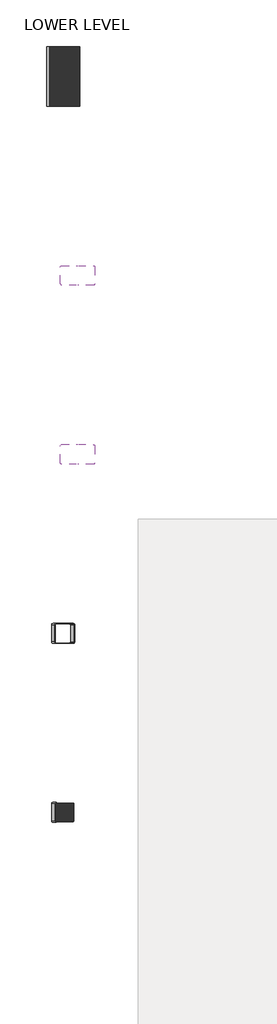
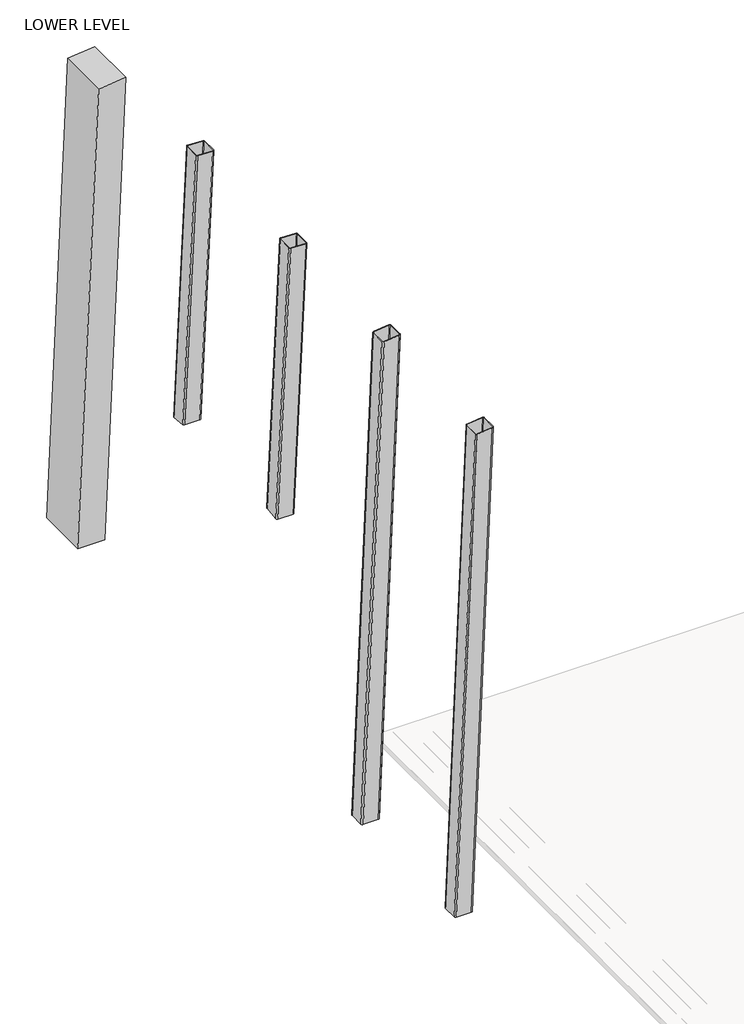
# One storey, part 2 of 3: 5 columns.
"""IFC4 building model written with IfcOpenShell, lengths in millimetres."""

from ifc_helpers import new_model, si_unit, frame, origin, place, context, project, spatial, polyline, circle_curve, ellipse_curve, faceted_brep, element, save
from ifc_brep_helpers import plane_surface, cylinder_surface, revolved_surface, advanced_brep

model = new_model("IFC4")

# Units and contexts
model_context = context("Model", 3, world=origin())
ifc_project = project(units=[si_unit("LENGTHUNIT", "METRE", prefix="MILLI")], contexts=[model_context])

# Site, building, storey
site = spatial("IfcSite", under=ifc_project)
building = spatial("IfcBuilding", under=site)
storey = spatial("IfcBuildingStorey", under=building, Name="LOWER LEVEL", Elevation=29972.0)

# Columns
placement = place(None, origin())
element("IfcColumn", 1, ObjectType="Concrete-Rectangular-Column : A_str", at=placement, inside=storey, context=model_context, shape_type="Brep", body=[
    faceted_brep([(-21607.7400357, 20848.2082736, 38102.2891217), (-21607.7400357, 21759.2695005, 38102.2891217), (-21607.7400357, 21762.6082736, 38102.2891217), (-21965.9553348, 21762.6082736, 29972.0), (-21965.9553348, 20848.2082736, 29972.0), (-21147.4307495, 21762.6082736, 38153.7759611), (-21507.9145255, 21762.6082736, 29972.0), (-21147.4307495, 20848.2082736, 38153.7759611), (-21507.9145255, 20848.2082736, 29972.0), (-21147.4307495, 21759.2695005, 38153.7759611)], [[[0, 1, 2, 3, 4]], [[2, 5, 6, 3]], [[7, 0, 4, 8]], [[5, 9, 7, 8, 6]], [[4, 3, 6, 8]], [[5, 2, 1, 0, 7, 9]]]),
])
element("IfcColumn", 2, ObjectType="HSS-Hollow Structural Section-Column : HSS12X12X1/2", at=placement, inside=storey, context=model_context, shape_type="AdvancedBrep", body=[
    advanced_brep(
    [(-21533.4360881, 10151.9775005, 38519.5536732), (-21889.5056209, 10151.9775005, 29971.1494497), (-21889.5056209, 9894.4215005, 29971.1494497), (-21533.4360881, 9894.4215005, 38519.5536732), (-21509.6829426, 10175.5995005, 38522.2104192), (-21865.8631377, 10175.5995005, 29971.1494497), (-21250.6970332, 10175.5995005, 38551.1775203), (-21608.0838046, 10175.5995005, 29971.1494497), (-21226.9438877, 10151.9775005, 38553.8342663), (-21584.4413214, 10151.9775005, 29971.1494497), (-21226.9438877, 9894.4215005, 38553.8342663), (-21584.4413214, 9894.4215005, 29971.1494497), (-21250.6970332, 9870.7995005, 38551.1775203), (-21608.0838046, 9870.7995005, 29971.1494497), (-21509.6829426, 9870.7995005, 38522.2104192), (-21865.8631377, 9870.7995005, 29971.1494497), (-21509.6829426, 9882.6105005, 38522.2104192), (-21865.8631377, 9882.6105005, 29971.1494497), (-21877.6843793, 9894.4215005, 29971.1494497), (-21521.5595154, 9894.4215005, 38520.8820462), (-21250.6970332, 9882.6105005, 38551.1775203), (-21608.0838046, 9882.6105005, 29971.1494497), (-21238.8204605, 9894.4215005, 38552.5058933), (-21596.262563, 9894.4215005, 29971.1494497), (-21238.8204605, 10151.9775005, 38552.5058933), (-21596.262563, 10151.9775005, 29971.1494497), (-21250.6970332, 10163.7885005, 38551.1775203), (-21608.0838046, 10163.7885005, 29971.1494497), (-21509.6829426, 10163.7885005, 38522.2104192), (-21865.8631377, 10163.7885005, 29971.1494497), (-21521.5595154, 10151.9775005, 38520.8820462), (-21877.6843793, 10151.9775005, 29971.1494497)],
    [
        (0, 1),
        (1, 2),
        (2, 3),
        (3, 0),
        (4, 5),
        (5, 1, ellipse_curve(frame((-21865.8631377, 10151.9775005, 29971.1494497), z_axis=(0.0, 0.0, 1.0), x_axis=(1.0, 0.0, 0.0)), 23.6424832, 23.622)),
        (0, 4, ellipse_curve(frame((-21509.6829426, 10151.9775005, 38522.2104192), z_axis=(0.11115505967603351, 0.0, -0.9938030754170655), x_axis=(0.9938030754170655, 0.0, 0.11115505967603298)), 23.9012598, 23.622)),
        (6, 7),
        (7, 5),
        (4, 6),
        (8, 9),
        (9, 7, ellipse_curve(frame((-21608.0838046, 10151.9775005, 29971.1494497), z_axis=(0.0, 0.0, 1.0), x_axis=(1.0, 0.0, 0.0)), 23.6424832, 23.622)),
        (6, 8, ellipse_curve(frame((-21250.6970332, 10151.9775005, 38551.1775203), z_axis=(0.11115505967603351, 0.0, -0.9938030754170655), x_axis=(0.9938030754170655, 0.0, 0.11115505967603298)), 23.9012598, 23.622)),
        (10, 11),
        (11, 9),
        (8, 10),
        (12, 13),
        (13, 11, ellipse_curve(frame((-21608.0838046, 9894.4215005, 29971.1494497), z_axis=(0.0, 0.0, 1.0), x_axis=(1.0, 0.0, 0.0)), 23.6424832, 23.622)),
        (10, 12, ellipse_curve(frame((-21250.6970332, 9894.4215005, 38551.1775203), z_axis=(0.11115505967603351, 0.0, -0.9938030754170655), x_axis=(0.9938030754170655, 0.0, 0.11115505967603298)), 23.9012598, 23.622)),
        (14, 15),
        (15, 13),
        (12, 14),
        (2, 15, ellipse_curve(frame((-21865.8631377, 9894.4215005, 29971.1494497), z_axis=(0.0, 0.0, 1.0), x_axis=(1.0, 0.0, 0.0)), 23.6424832, 23.622)),
        (14, 3, ellipse_curve(frame((-21509.6829426, 9894.4215005, 38522.2104192), z_axis=(0.11115505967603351, 0.0, -0.9938030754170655), x_axis=(0.9938030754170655, 0.0, 0.11115505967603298)), 23.9012598, 23.622)),
        (16, 17),
        (17, 18, ellipse_curve(frame((-21865.8631377, 9894.4215005, 29971.1494497), z_axis=(0.0, 0.0, -1.0), x_axis=(-1.0, 0.0, 0.0)), 11.8212416, 11.811)),
        (18, 19),
        (19, 16, ellipse_curve(frame((-21509.6829426, 9894.4215005, 38522.2104192), z_axis=(-0.11115505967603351, 0.0, 0.9938030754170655), x_axis=(-0.9938030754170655, 0.0, -0.11115505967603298)), 11.9506299, 11.811)),
        (20, 21),
        (21, 17),
        (16, 20),
        (22, 23),
        (23, 21, ellipse_curve(frame((-21608.0838046, 9894.4215005, 29971.1494497), z_axis=(0.0, 0.0, -1.0), x_axis=(-1.0, 0.0, 0.0)), 11.8212416, 11.811)),
        (20, 22, ellipse_curve(frame((-21250.6970332, 9894.4215005, 38551.1775203), z_axis=(-0.11115505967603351, 0.0, 0.9938030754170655), x_axis=(-0.9938030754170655, 0.0, -0.11115505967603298)), 11.9506299, 11.811)),
        (24, 25),
        (25, 23),
        (22, 24),
        (26, 27),
        (27, 25, ellipse_curve(frame((-21608.0838046, 10151.9775005, 29971.1494497), z_axis=(0.0, 0.0, -1.0), x_axis=(-1.0, 0.0, 0.0)), 11.8212416, 11.811)),
        (24, 26, ellipse_curve(frame((-21250.6970332, 10151.9775005, 38551.1775203), z_axis=(-0.11115505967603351, 0.0, 0.9938030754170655), x_axis=(-0.9938030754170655, 0.0, -0.11115505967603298)), 11.9506299, 11.811)),
        (28, 29),
        (29, 27),
        (26, 28),
        (30, 31),
        (31, 29, ellipse_curve(frame((-21865.8631377, 10151.9775005, 29971.1494497), z_axis=(0.0, 0.0, -1.0), x_axis=(-1.0, 0.0, 0.0)), 11.8212416, 11.811)),
        (28, 30, ellipse_curve(frame((-21509.6829426, 10151.9775005, 38522.2104192), z_axis=(-0.11115505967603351, 0.0, 0.9938030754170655), x_axis=(-0.9938030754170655, 0.0, -0.11115505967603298)), 11.9506299, 11.811)),
        (18, 31),
        (30, 19),
    ],
    [
        plane_surface(frame((-21531.4798172, 10151.9775005, 38566.519203), z_axis=(-0.9991336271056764, 0.0, 0.04161724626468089), x_axis=(-0.04161724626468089, 0.0, -0.9991336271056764))),
        cylinder_surface(frame((-21883.5946664, 10151.9775005, 29545.4565416), z_axis=(0.04161724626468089, 0.0, 0.9991336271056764), x_axis=(0.0, 1.0, 0.0)), 23.622),
        plane_surface(frame((-21250.5454222, 10175.5995005, 38554.8173489), z_axis=(0.0, 1.0, 0.0), x_axis=(-0.04161724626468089, 0.0, -0.9991336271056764))),
        cylinder_surface(frame((-21626.2618059, 10151.9775005, 29534.7377702), z_axis=(0.04161724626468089, 0.0, 0.9991336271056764), x_axis=(0.0, 1.0, 0.0)), 23.622),
        plane_surface(frame((-21226.9438877, 9894.4215005, 38553.8342663), z_axis=(0.9991336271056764, 0.0, -0.04161724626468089), x_axis=(-0.04161724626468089, 0.0, -0.9991336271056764))),
        cylinder_surface(frame((-21626.2618059, 9894.4215005, 29534.7377702), z_axis=(0.04161724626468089, 0.0, 0.9991336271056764), x_axis=(0.0, 1.0, 0.0)), 23.622),
        plane_surface(frame((-21507.8782827, 9870.7995005, 38565.5361204), z_axis=(0.0, -1.0, 0.0), x_axis=(-0.04161724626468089, 0.0, -0.9991336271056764))),
        cylinder_surface(frame((-21883.5946664, 9894.4215005, 29545.4565416), z_axis=(0.04161724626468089, 0.0, 0.9991336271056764), x_axis=(0.0, 1.0, 0.0)), 23.622),
        revolved_surface(polyline([(-21865.88361202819, 9906.2325005, 29970.65790840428), (-21509.60713713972, 9906.2325005, 38524.03033347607)]), (-21883.5946664, 9894.4215005, 29545.4565416), (-0.04161724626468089, 0.0, -0.9991336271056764)),
        plane_surface(frame((-21250.5454222, 9882.6105005, 38554.8173489), z_axis=(0.0, 1.0, 0.0), x_axis=(-0.04161724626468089, 0.0, -0.9991336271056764))),
        revolved_surface(polyline([(-21608.10427896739, 9906.2325005, 29970.657908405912), (-21250.621227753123, 9906.2325005, 38552.99743459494)]), (-21626.2618059, 9894.4215005, 29534.7377702), (-0.04161724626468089, 0.0, -0.9991336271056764)),
        plane_surface(frame((-21238.744655, 10151.9775005, 38554.3258076), z_axis=(-0.9991336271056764, 0.0, 0.04161724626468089), x_axis=(-0.04161724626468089, 0.0, -0.9991336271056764))),
        revolved_surface(polyline([(-21608.10427896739, 10163.788500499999, 29970.657908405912), (-21250.621227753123, 10163.788500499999, 38552.99743459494)]), (-21626.2618059, 10151.9775005, 29534.7377702), (-0.04161724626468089, 0.0, -0.9991336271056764)),
        plane_surface(frame((-21507.8782827, 10163.7885005, 38565.5361204), z_axis=(0.0, -1.0, 0.0), x_axis=(-0.04161724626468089, 0.0, -0.9991336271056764))),
        revolved_surface(polyline([(-21865.88361202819, 10163.788500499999, 29970.65790840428), (-21509.60713713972, 10163.788500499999, 38524.03033347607)]), (-21883.5946664, 10151.9775005, 29545.4565416), (-0.04161724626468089, 0.0, -0.9991336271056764)),
        plane_surface(frame((-21519.67905, 9894.4215005, 38566.0276617), z_axis=(0.9991336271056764, 0.0, -0.04161724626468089), x_axis=(-0.04161724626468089, 0.0, -0.9991336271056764))),
        plane_surface(frame((-21736.9734711, 10023.1995005, 29971.1494497), z_axis=(0.0, 0.0, -1.0), x_axis=(1.0, 0.0, 0.0))),
        plane_surface(frame((-6860.2204607, 20600.2981473, 40160.7260534), z_axis=(-0.11115505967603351, 0.0, 0.9938030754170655), x_axis=(0.9938030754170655, 0.0, 0.11115505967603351))),
    ],
    [
        (0, [[1, 2, 3, 4]]),
        (1, [[5, 6, -1, 7]]),
        (2, [[8, 9, -5, 10]]),
        (3, [[11, 12, -8, 13]]),
        (4, [[14, 15, -11, 16]]),
        (5, [[17, 18, -14, 19]]),
        (6, [[20, 21, -17, 22]]),
        (7, [[-3, 23, -20, 24]]),
        (8, [[25, 26, 27, 28]]),
        (9, [[29, 30, -25, 31]]),
        (10, [[32, 33, -29, 34]]),
        (11, [[35, 36, -32, 37]]),
        (12, [[38, 39, -35, 40]]),
        (13, [[41, 42, -38, 43]]),
        (14, [[44, 45, -41, 46]]),
        (15, [[-27, 47, -44, 48]]),
        (16, [[-2, -6, -9, -12, -15, -18, -21, -23], [-26, -30, -33, -36, -39, -42, -45, -47]]),
        (17, [[-4, -24, -22, -19, -16, -13, -10, -7], [-28, -48, -46, -43, -40, -37, -34, -31]]),
    ],
),
])
element("IfcColumn", 3, ObjectType="HSS-Hollow Structural Section-Column : HSS12X12X1/2", at=placement, inside=storey, context=model_context, shape_type="AdvancedBrep", body=[
    advanced_brep(
    [(-21533.4360881, 12895.1775005, 38519.5536732), (-21889.5056209, 12895.1775005, 29971.1494497), (-21889.5056209, 12637.6215005, 29971.1494497), (-21533.4360881, 12637.6215005, 38519.5536732), (-21509.6829426, 12918.7995005, 38522.2104192), (-21865.8631377, 12918.7995005, 29971.1494497), (-21250.6970332, 12918.7995005, 38551.1775203), (-21608.0838046, 12918.7995005, 29971.1494497), (-21226.9438877, 12895.1775005, 38553.8342663), (-21584.4413214, 12895.1775005, 29971.1494497), (-21226.9438877, 12637.6215005, 38553.8342663), (-21584.4413214, 12637.6215005, 29971.1494497), (-21250.6970332, 12613.9995005, 38551.1775203), (-21608.0838046, 12613.9995005, 29971.1494497), (-21509.6829426, 12613.9995005, 38522.2104192), (-21865.8631377, 12613.9995005, 29971.1494497), (-21509.6829426, 12625.8105005, 38522.2104192), (-21865.8631377, 12625.8105005, 29971.1494497), (-21877.6843793, 12637.6215005, 29971.1494497), (-21521.5595154, 12637.6215005, 38520.8820462), (-21250.6970332, 12625.8105005, 38551.1775203), (-21608.0838046, 12625.8105005, 29971.1494497), (-21238.8204605, 12637.6215005, 38552.5058933), (-21596.262563, 12637.6215005, 29971.1494497), (-21238.8204605, 12895.1775005, 38552.5058933), (-21596.262563, 12895.1775005, 29971.1494497), (-21250.6970332, 12906.9885005, 38551.1775203), (-21608.0838046, 12906.9885005, 29971.1494497), (-21509.6829426, 12906.9885005, 38522.2104192), (-21865.8631377, 12906.9885005, 29971.1494497), (-21521.5595154, 12895.1775005, 38520.8820462), (-21877.6843793, 12895.1775005, 29971.1494497)],
    [
        (0, 1),
        (1, 2),
        (2, 3),
        (3, 0),
        (4, 5),
        (5, 1, ellipse_curve(frame((-21865.8631377, 12895.1775005, 29971.1494497), z_axis=(0.0, 0.0, 1.0), x_axis=(1.0, 0.0, 0.0)), 23.6424832, 23.622)),
        (0, 4, ellipse_curve(frame((-21509.6829426, 12895.1775005, 38522.2104192), z_axis=(0.11115505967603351, 0.0, -0.9938030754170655), x_axis=(0.9938030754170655, 0.0, 0.11115505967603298)), 23.9012598, 23.622)),
        (6, 7),
        (7, 5),
        (4, 6),
        (8, 9),
        (9, 7, ellipse_curve(frame((-21608.0838046, 12895.1775005, 29971.1494497), z_axis=(0.0, 0.0, 1.0), x_axis=(1.0, 0.0, 0.0)), 23.6424832, 23.622)),
        (6, 8, ellipse_curve(frame((-21250.6970332, 12895.1775005, 38551.1775203), z_axis=(0.11115505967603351, 0.0, -0.9938030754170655), x_axis=(0.9938030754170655, 0.0, 0.11115505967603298)), 23.9012598, 23.622)),
        (10, 11),
        (11, 9),
        (8, 10),
        (12, 13),
        (13, 11, ellipse_curve(frame((-21608.0838046, 12637.6215005, 29971.1494497), z_axis=(0.0, 0.0, 1.0), x_axis=(1.0, 0.0, 0.0)), 23.6424832, 23.622)),
        (10, 12, ellipse_curve(frame((-21250.6970332, 12637.6215005, 38551.1775203), z_axis=(0.11115505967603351, 0.0, -0.9938030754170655), x_axis=(0.9938030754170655, 0.0, 0.11115505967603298)), 23.9012598, 23.622)),
        (14, 15),
        (15, 13),
        (12, 14),
        (2, 15, ellipse_curve(frame((-21865.8631377, 12637.6215005, 29971.1494497), z_axis=(0.0, 0.0, 1.0), x_axis=(1.0, 0.0, 0.0)), 23.6424832, 23.622)),
        (14, 3, ellipse_curve(frame((-21509.6829426, 12637.6215005, 38522.2104192), z_axis=(0.11115505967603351, 0.0, -0.9938030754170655), x_axis=(0.9938030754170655, 0.0, 0.11115505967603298)), 23.9012598, 23.622)),
        (16, 17),
        (17, 18, ellipse_curve(frame((-21865.8631377, 12637.6215005, 29971.1494497), z_axis=(0.0, 0.0, -1.0), x_axis=(-1.0, 0.0, 0.0)), 11.8212416, 11.811)),
        (18, 19),
        (19, 16, ellipse_curve(frame((-21509.6829426, 12637.6215005, 38522.2104192), z_axis=(-0.11115505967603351, 0.0, 0.9938030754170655), x_axis=(-0.9938030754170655, 0.0, -0.11115505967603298)), 11.9506299, 11.811)),
        (20, 21),
        (21, 17),
        (16, 20),
        (22, 23),
        (23, 21, ellipse_curve(frame((-21608.0838046, 12637.6215005, 29971.1494497), z_axis=(0.0, 0.0, -1.0), x_axis=(-1.0, 0.0, 0.0)), 11.8212416, 11.811)),
        (20, 22, ellipse_curve(frame((-21250.6970332, 12637.6215005, 38551.1775203), z_axis=(-0.11115505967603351, 0.0, 0.9938030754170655), x_axis=(-0.9938030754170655, 0.0, -0.11115505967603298)), 11.9506299, 11.811)),
        (24, 25),
        (25, 23),
        (22, 24),
        (26, 27),
        (27, 25, ellipse_curve(frame((-21608.0838046, 12895.1775005, 29971.1494497), z_axis=(0.0, 0.0, -1.0), x_axis=(-1.0, 0.0, 0.0)), 11.8212416, 11.811)),
        (24, 26, ellipse_curve(frame((-21250.6970332, 12895.1775005, 38551.1775203), z_axis=(-0.11115505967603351, 0.0, 0.9938030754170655), x_axis=(-0.9938030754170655, 0.0, -0.11115505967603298)), 11.9506299, 11.811)),
        (28, 29),
        (29, 27),
        (26, 28),
        (30, 31),
        (31, 29, ellipse_curve(frame((-21865.8631377, 12895.1775005, 29971.1494497), z_axis=(0.0, 0.0, -1.0), x_axis=(-1.0, 0.0, 0.0)), 11.8212416, 11.811)),
        (28, 30, ellipse_curve(frame((-21509.6829426, 12895.1775005, 38522.2104192), z_axis=(-0.11115505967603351, 0.0, 0.9938030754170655), x_axis=(-0.9938030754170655, 0.0, -0.11115505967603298)), 11.9506299, 11.811)),
        (18, 31),
        (30, 19),
    ],
    [
        plane_surface(frame((-21531.4798172, 12895.1775005, 38566.519203), z_axis=(-0.9991336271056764, 0.0, 0.04161724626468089), x_axis=(-0.04161724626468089, 0.0, -0.9991336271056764))),
        cylinder_surface(frame((-21883.5946664, 12895.1775005, 29545.4565416), z_axis=(0.04161724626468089, 0.0, 0.9991336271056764), x_axis=(0.0, 1.0, 0.0)), 23.622),
        plane_surface(frame((-21250.5454222, 12918.7995005, 38554.8173489), z_axis=(0.0, 1.0, 0.0), x_axis=(-0.04161724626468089, 0.0, -0.9991336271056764))),
        cylinder_surface(frame((-21626.2618059, 12895.1775005, 29534.7377702), z_axis=(0.04161724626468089, 0.0, 0.9991336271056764), x_axis=(0.0, 1.0, 0.0)), 23.622),
        plane_surface(frame((-21226.9438877, 12637.6215005, 38553.8342663), z_axis=(0.9991336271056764, 0.0, -0.04161724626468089), x_axis=(-0.04161724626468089, 0.0, -0.9991336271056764))),
        cylinder_surface(frame((-21626.2618059, 12637.6215005, 29534.7377702), z_axis=(0.04161724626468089, 0.0, 0.9991336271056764), x_axis=(0.0, 1.0, 0.0)), 23.622),
        plane_surface(frame((-21507.8782827, 12613.9995005, 38565.5361204), z_axis=(0.0, -1.0, 0.0), x_axis=(-0.04161724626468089, 0.0, -0.9991336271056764))),
        cylinder_surface(frame((-21883.5946664, 12637.6215005, 29545.4565416), z_axis=(0.04161724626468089, 0.0, 0.9991336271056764), x_axis=(0.0, 1.0, 0.0)), 23.622),
        revolved_surface(polyline([(-21865.88361202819, 12649.4325005, 29970.65790840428), (-21509.60713713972, 12649.4325005, 38524.03033347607)]), (-21883.5946664, 12637.6215005, 29545.4565416), (-0.04161724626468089, 0.0, -0.9991336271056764)),
        plane_surface(frame((-21250.5454222, 12625.8105005, 38554.8173489), z_axis=(0.0, 1.0, 0.0), x_axis=(-0.04161724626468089, 0.0, -0.9991336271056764))),
        revolved_surface(polyline([(-21608.10427896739, 12649.4325005, 29970.657908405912), (-21250.621227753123, 12649.4325005, 38552.99743459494)]), (-21626.2618059, 12637.6215005, 29534.7377702), (-0.04161724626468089, 0.0, -0.9991336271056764)),
        plane_surface(frame((-21238.744655, 12895.1775005, 38554.3258076), z_axis=(-0.9991336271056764, 0.0, 0.04161724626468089), x_axis=(-0.04161724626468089, 0.0, -0.9991336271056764))),
        revolved_surface(polyline([(-21608.10427896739, 12906.9885005, 29970.657908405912), (-21250.621227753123, 12906.9885005, 38552.99743459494)]), (-21626.2618059, 12895.1775005, 29534.7377702), (-0.04161724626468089, 0.0, -0.9991336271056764)),
        plane_surface(frame((-21507.8782827, 12906.9885005, 38565.5361204), z_axis=(0.0, -1.0, 0.0), x_axis=(-0.04161724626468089, 0.0, -0.9991336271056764))),
        revolved_surface(polyline([(-21865.88361202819, 12906.9885005, 29970.65790840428), (-21509.60713713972, 12906.9885005, 38524.03033347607)]), (-21883.5946664, 12895.1775005, 29545.4565416), (-0.04161724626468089, 0.0, -0.9991336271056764)),
        plane_surface(frame((-21519.67905, 12637.6215005, 38566.0276617), z_axis=(0.9991336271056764, 0.0, -0.04161724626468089), x_axis=(-0.04161724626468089, 0.0, -0.9991336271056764))),
        plane_surface(frame((-21736.9734711, 12766.3995005, 29971.1494497), z_axis=(0.0, 0.0, -1.0), x_axis=(1.0, 0.0, 0.0))),
        plane_surface(frame((-6860.2204607, 20600.2981473, 40160.7260534), z_axis=(-0.11115505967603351, 0.0, 0.9938030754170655), x_axis=(0.9938030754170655, 0.0, 0.11115505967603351))),
    ],
    [
        (0, [[1, 2, 3, 4]]),
        (1, [[5, 6, -1, 7]]),
        (2, [[8, 9, -5, 10]]),
        (3, [[11, 12, -8, 13]]),
        (4, [[14, 15, -11, 16]]),
        (5, [[17, 18, -14, 19]]),
        (6, [[20, 21, -17, 22]]),
        (7, [[-3, 23, -20, 24]]),
        (8, [[25, 26, 27, 28]]),
        (9, [[29, 30, -25, 31]]),
        (10, [[32, 33, -29, 34]]),
        (11, [[35, 36, -32, 37]]),
        (12, [[38, 39, -35, 40]]),
        (13, [[41, 42, -38, 43]]),
        (14, [[44, 45, -41, 46]]),
        (15, [[-27, 47, -44, 48]]),
        (16, [[-2, -6, -9, -12, -15, -18, -21, -23], [-26, -30, -33, -36, -39, -42, -45, -47]]),
        (17, [[-4, -24, -22, -19, -16, -13, -10, -7], [-28, -48, -46, -43, -40, -37, -34, -31]]),
    ],
),
])
element("IfcColumn", 4, ObjectType="HSS-Hollow Structural Section-Column : HSS12X12X1/2", at=placement, inside=storey, context=model_context, shape_type="AdvancedBrep", body=[
    advanced_brep(
    [(-21532.4260596, 15638.3775005, 38543.760685), (-21532.4260596, 15380.8215005, 38543.760685), (-21508.8294685, 15357.1995005, 38542.6653441), (-21251.5505073, 15357.1995005, 38530.7225954), (-21227.9539162, 15380.8215005, 38529.6272545), (-21227.9539162, 15638.3775005, 38529.6272545), (-21251.5505073, 15661.9995005, 38530.7225954), (-21508.8294685, 15661.9995005, 38542.6653441), (-21520.6277641, 15638.3775005, 38543.2130146), (-21508.8294685, 15650.1885005, 38542.6653441), (-21251.5505073, 15650.1885005, 38530.7225954), (-21239.7522117, 15638.3775005, 38530.174925), (-21239.7522117, 15380.8215005, 38530.174925), (-21251.5505073, 15369.0105005, 38530.7225954), (-21508.8294685, 15369.0105005, 38542.6653441), (-21520.6277641, 15380.8215005, 38543.2130146), (-21741.8535796, 15638.3775005, 33777.4133462), (-21729.9718724, 15650.1885005, 33778.6625865), (-21472.1385353, 15650.1885005, 33778.6625865), (-21460.3728063, 15638.3775005, 33777.4133462), (-21461.6373418, 15380.8215005, 33750.1718462), (-21473.519049, 15369.0105005, 33748.9226058), (-21731.3523861, 15369.0105005, 33748.9226058), (-21743.1181151, 15380.8215005, 33750.1718462), (-21753.6772977, 15638.3775005, 33777.4133462), (-21754.9418333, 15380.8215005, 33750.1718462), (-21729.9138834, 15661.9995005, 33779.9118269), (-21731.4103751, 15357.1995005, 33747.6733654), (-21473.577038, 15357.1995005, 33747.6733654), (-21449.8136237, 15380.8215005, 33750.1718462), (-21448.5490881, 15638.3775005, 33777.4133462), (-21472.0805463, 15661.9995005, 33779.9118269)],
    [
        (0, 1),
        (1, 2, circle_curve(frame((-21508.8294685, 15380.8215005, 38542.6653441), z_axis=(0.04636952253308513, 0.0, 0.9989243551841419), x_axis=(0.0, 1.0, 0.0)), 23.622)),
        (2, 3),
        (3, 4, circle_curve(frame((-21251.5505073, 15380.8215005, 38530.7225954), z_axis=(0.04636952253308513, 0.0, 0.9989243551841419), x_axis=(0.0, 1.0, 0.0)), 23.622)),
        (4, 5),
        (5, 6, circle_curve(frame((-21251.5505073, 15638.3775005, 38530.7225954), z_axis=(0.04636952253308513, 0.0, 0.9989243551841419), x_axis=(0.0, 1.0, 0.0)), 23.622)),
        (6, 7),
        (7, 0, circle_curve(frame((-21508.8294685, 15638.3775005, 38542.6653441), z_axis=(0.04636952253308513, 0.0, 0.9989243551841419), x_axis=(0.0, 1.0, 0.0)), 23.622)),
        (8, 9, circle_curve(frame((-21508.8294685, 15638.3775005, 38542.6653441), z_axis=(-0.04636952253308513, 0.0, -0.9989243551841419), x_axis=(0.0, 1.0, 0.0)), 11.811)),
        (9, 10),
        (10, 11, circle_curve(frame((-21251.5505073, 15638.3775005, 38530.7225954), z_axis=(-0.04636952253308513, 0.0, -0.9989243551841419), x_axis=(0.0, 1.0, 0.0)), 11.811)),
        (11, 12),
        (12, 13, circle_curve(frame((-21251.5505073, 15380.8215005, 38530.7225954), z_axis=(-0.04636952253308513, 0.0, -0.9989243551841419), x_axis=(0.0, 1.0, 0.0)), 11.811)),
        (13, 14),
        (14, 15, circle_curve(frame((-21508.8294685, 15380.8215005, 38542.6653441), z_axis=(-0.04636952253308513, 0.0, -0.9989243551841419), x_axis=(0.0, 1.0, 0.0)), 11.811)),
        (15, 8),
        (8, 16),
        (16, 17, ellipse_curve(frame((-21730.0298615, 15638.3775005, 33777.4133462), z_axis=(0.0, 0.10518252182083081, -0.9944529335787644), x_axis=(-0.40375232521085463, -0.9097934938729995, -0.09622815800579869)), 11.8896709, 11.811)),
        (17, 9),
        (17, 18),
        (18, 10),
        (18, 19, ellipse_curve(frame((-21472.1965244, 15638.3775005, 33777.4133462), z_axis=(0.0, 0.10518252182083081, -0.9944529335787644), x_axis=(-0.40375232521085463, -0.9097934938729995, -0.09622815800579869)), 11.8896709, 11.811)),
        (19, 11),
        (19, 20),
        (20, 12),
        (20, 21, ellipse_curve(frame((-21473.4610599, 15380.8215005, 33750.1718462), z_axis=(0.0, 0.10518252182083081, -0.9944529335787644), x_axis=(-0.40375232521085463, -0.9097934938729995, -0.09622815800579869)), 11.8896709, 11.811)),
        (21, 13),
        (21, 22),
        (22, 14),
        (22, 23, ellipse_curve(frame((-21731.294397, 15380.8215005, 33750.1718462), z_axis=(0.0, 0.10518252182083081, -0.9944529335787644), x_axis=(-0.40375232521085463, -0.9097934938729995, -0.09622815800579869)), 11.8896709, 11.811)),
        (23, 15),
        (0, 24),
        (24, 25),
        (25, 1),
        (7, 26),
        (26, 24, ellipse_curve(frame((-21730.0298615, 15638.3775005, 33777.4133462), z_axis=(0.0, -0.10518252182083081, 0.9944529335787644), x_axis=(0.40375232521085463, 0.9097934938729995, 0.09622815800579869)), 23.7793418, 23.622)),
        (25, 27, ellipse_curve(frame((-21731.294397, 15380.8215005, 33750.1718462), z_axis=(0.0, -0.10518252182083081, 0.9944529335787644), x_axis=(0.40375232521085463, 0.9097934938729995, 0.09622815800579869)), 23.7793418, 23.622)),
        (27, 2),
        (23, 16),
        (27, 28),
        (28, 3),
        (28, 29, ellipse_curve(frame((-21473.4610599, 15380.8215005, 33750.1718462), z_axis=(0.0, -0.10518252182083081, 0.9944529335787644), x_axis=(0.40375232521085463, 0.9097934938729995, 0.09622815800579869)), 23.7793418, 23.622)),
        (29, 4),
        (29, 30),
        (30, 5),
        (30, 31, ellipse_curve(frame((-21472.1965244, 15638.3775005, 33777.4133462), z_axis=(0.0, -0.10518252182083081, 0.9944529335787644), x_axis=(0.40375232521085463, 0.9097934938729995, 0.09622815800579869)), 23.7793418, 23.622)),
        (31, 6),
        (31, 26),
    ],
    [
        plane_surface(frame((-21532.4260596, 15380.8215005, 38543.760685), z_axis=(0.04636952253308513, 0.0, 0.9989243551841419), x_axis=(0.0, -1.0, 0.0))),
        revolved_surface(polyline([(-21730.093178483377, 15650.1885005, 33776.04932844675), (-21508.829468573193, 15650.1885005, 38542.665344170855)]), (-21751.5820437, 15638.3775005, 33313.1213176), (-0.04636952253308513, 0.0, -0.9989243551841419)),
        plane_surface(frame((-21508.8294685, 15650.1885005, 38542.6653441), z_axis=(0.0, -1.0, 0.0), x_axis=(-0.04636952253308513, 0.0, -0.9989243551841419))),
        revolved_surface(polyline([(-21472.25984131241, 15650.1885005, 33776.049328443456), (-21251.550507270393, 15650.1885005, 38530.722595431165)]), (-21494.3030824, 15638.3775005, 33301.1785688), (-0.04636952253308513, 0.0, -0.9989243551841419)),
        plane_surface(frame((-21239.7522117, 15638.3775005, 38530.174925), z_axis=(-0.9989243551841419, 0.0, 0.04636952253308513), x_axis=(-0.04636952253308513, 0.0, -0.9989243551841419))),
        revolved_surface(polyline([(-21473.52437685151, 15392.6325005, 33748.807828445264), (-21251.550507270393, 15392.6325005, 38530.722595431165)]), (-21494.3030824, 15380.8215005, 33301.1785688), (-0.04636952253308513, 0.0, -0.9989243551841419)),
        plane_surface(frame((-21251.5505073, 15369.0105005, 38530.7225954), z_axis=(0.0, 1.0, 0.0), x_axis=(-0.04636952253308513, 0.0, -0.9989243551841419))),
        revolved_surface(polyline([(-21731.357714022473, 15392.6325005, 33748.80782844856), (-21508.829468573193, 15392.6325005, 38542.665344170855)]), (-21751.5820437, 15380.8215005, 33313.1213176), (-0.04636952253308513, 0.0, -0.9989243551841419)),
        plane_surface(frame((-21532.4260596, 15638.3775005, 38543.760685), z_axis=(-0.9989243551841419, 0.0, 0.04636952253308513), x_axis=(-0.04636952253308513, 0.0, -0.9989243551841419))),
        cylinder_surface(frame((-21751.5820437, 15638.3775005, 33313.1213176), z_axis=(0.04636952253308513, 0.0, 0.9989243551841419), x_axis=(0.0, 1.0, 0.0)), 23.622),
        cylinder_surface(frame((-21751.5820437, 15380.8215005, 33313.1213176), z_axis=(0.04636952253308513, 0.0, 0.9989243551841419), x_axis=(0.0, 1.0, 0.0)), 23.622),
        plane_surface(frame((-21520.6277641, 15380.8215005, 38543.2130146), z_axis=(0.9989243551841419, 0.0, -0.04636952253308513), x_axis=(-0.04636952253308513, 0.0, -0.9989243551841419))),
        plane_surface(frame((-21508.8294685, 15357.1995005, 38542.6653441), z_axis=(0.0, -1.0, 0.0), x_axis=(-0.04636952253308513, 0.0, -0.9989243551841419))),
        cylinder_surface(frame((-21494.3030824, 15380.8215005, 33301.1785688), z_axis=(0.04636952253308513, 0.0, 0.9989243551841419), x_axis=(0.0, 1.0, 0.0)), 23.622),
        plane_surface(frame((-21227.9539162, 15380.8215005, 38529.6272545), z_axis=(0.9989243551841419, 0.0, -0.04636952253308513), x_axis=(-0.04636952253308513, 0.0, -0.9989243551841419))),
        cylinder_surface(frame((-21494.3030824, 15638.3775005, 33301.1785688), z_axis=(0.04636952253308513, 0.0, 0.9989243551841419), x_axis=(0.0, 1.0, 0.0)), 23.622),
        plane_surface(frame((-21251.5505073, 15661.9995005, 38530.7225954), z_axis=(0.0, 1.0, 0.0), x_axis=(-0.04636952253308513, 0.0, -0.9989243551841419))),
        plane_surface(frame((-22782.4560566, 16882.4695005, 33909.0), z_axis=(0.0, 0.10518252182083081, -0.9944529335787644), x_axis=(0.0, 0.9944529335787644, 0.10518252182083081))),
    ],
    [
        (0, [[1, 2, 3, 4, 5, 6, 7, 8], [9, 10, 11, 12, 13, 14, 15, 16]]),
        (1, [[-9, 17, 18, 19]]),
        (2, [[-10, -19, 20, 21]]),
        (3, [[-11, -21, 22, 23]]),
        (4, [[-12, -23, 24, 25]]),
        (5, [[-13, -25, 26, 27]]),
        (6, [[-14, -27, 28, 29]]),
        (7, [[-15, -29, 30, 31]]),
        (8, [[-1, 32, 33, 34]]),
        (9, [[-8, 35, 36, -32]]),
        (10, [[-2, -34, 37, 38]]),
        (11, [[-16, -31, 39, -17]]),
        (12, [[-3, -38, 40, 41]]),
        (13, [[-4, -41, 42, 43]]),
        (14, [[-5, -43, 44, 45]]),
        (15, [[-6, -45, 46, 47]]),
        (16, [[-7, -47, 48, -35]]),
        (17, [[-33, -36, -48, -46, -44, -42, -40, -37], [-30, -28, -26, -24, -22, -20, -18, -39]]),
    ],
),
])
element("IfcColumn", 5, ObjectType="HSS-Hollow Structural Section-Column : HSS12X12X1/2", at=placement, inside=storey, context=model_context, shape_type="AdvancedBrep", body=[
    advanced_brep(
    [(-21532.4260412, 18381.5775005, 38543.7610819), (-21532.4260412, 18124.0215005, 38543.7610819), (-21508.829453, 18100.3995005, 38542.6656795), (-21251.5505229, 18100.3995005, 38530.72226), (-21227.9539346, 18124.0215005, 38529.6268576), (-21227.9539346, 18381.5775005, 38529.6268576), (-21251.5505229, 18405.1995005, 38530.72226), (-21508.829453, 18405.1995005, 38542.6656795), (-21520.6277471, 18381.5775005, 38543.2133807), (-21508.829453, 18393.3885005, 38542.6656795), (-21251.5505229, 18393.3885005, 38530.72226), (-21239.7522287, 18381.5775005, 38530.1745588), (-21239.7522287, 18124.0215005, 38530.1745588), (-21251.5505229, 18112.2105005, 38530.72226), (-21508.829453, 18112.2105005, 38542.6656795), (-21520.6277471, 18124.0215005, 38543.2133807), (-21743.1181678, 18381.5775005, 33750.4405), (-21731.3524405, 18393.3885005, 33749.1912596), (-21473.5190722, 18393.3885005, 33749.1912596), (-21461.6373604, 18381.5775005, 33750.4405), (-21460.3727536, 18124.0215005, 33777.682), (-21472.1384809, 18112.2105005, 33778.9312404), (-21729.9718492, 18112.2105005, 33778.9312404), (-21741.853561, 18124.0215005, 33777.682), (-21754.9418873, 18381.5775005, 33750.4405), (-21753.6772806, 18124.0215005, 33777.682), (-21731.4104329, 18405.1995005, 33747.9420192), (-21729.9138569, 18100.3995005, 33780.1804808), (-21472.0804886, 18100.3995005, 33780.1804808), (-21448.5490341, 18124.0215005, 33777.682), (-21449.8136408, 18381.5775005, 33750.4405), (-21473.5770646, 18405.1995005, 33747.9420192)],
    [
        (0, 1),
        (1, 2, circle_curve(frame((-21508.829453, 18124.0215005, 38542.6656795), z_axis=(0.04637212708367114, 0.0, 0.9989242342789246), x_axis=(0.0, 1.0, 0.0)), 23.622)),
        (2, 3),
        (3, 4, circle_curve(frame((-21251.5505229, 18124.0215005, 38530.72226), z_axis=(0.04637212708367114, 0.0, 0.9989242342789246), x_axis=(0.0, 1.0, 0.0)), 23.622)),
        (4, 5),
        (5, 6, circle_curve(frame((-21251.5505229, 18381.5775005, 38530.72226), z_axis=(0.04637212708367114, 0.0, 0.9989242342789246), x_axis=(0.0, 1.0, 0.0)), 23.622)),
        (6, 7),
        (7, 0, circle_curve(frame((-21508.829453, 18381.5775005, 38542.6656795), z_axis=(0.04637212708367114, 0.0, 0.9989242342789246), x_axis=(0.0, 1.0, 0.0)), 23.622)),
        (8, 9, circle_curve(frame((-21508.829453, 18381.5775005, 38542.6656795), z_axis=(-0.04637212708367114, 0.0, -0.9989242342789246), x_axis=(0.0, 1.0, 0.0)), 11.811)),
        (9, 10),
        (10, 11, circle_curve(frame((-21251.5505229, 18381.5775005, 38530.72226), z_axis=(-0.04637212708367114, 0.0, -0.9989242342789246), x_axis=(0.0, 1.0, 0.0)), 11.811)),
        (11, 12),
        (12, 13, circle_curve(frame((-21251.5505229, 18124.0215005, 38530.72226), z_axis=(-0.04637212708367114, 0.0, -0.9989242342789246), x_axis=(0.0, 1.0, 0.0)), 11.811)),
        (13, 14),
        (14, 15, circle_curve(frame((-21508.829453, 18124.0215005, 38542.6656795), z_axis=(-0.04637212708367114, 0.0, -0.9989242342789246), x_axis=(0.0, 1.0, 0.0)), 11.811)),
        (15, 8),
        (8, 16),
        (16, 17, ellipse_curve(frame((-21731.2944482, 18381.5775005, 33750.4405), z_axis=(0.0, -0.10518252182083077, -0.9944529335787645), x_axis=(-0.40377134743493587, 0.9097851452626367, -0.09622727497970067)), 11.8896724, 11.811)),
        (17, 9),
        (17, 18),
        (18, 10),
        (18, 19, ellipse_curve(frame((-21473.4610799, 18381.5775005, 33750.4405), z_axis=(0.0, -0.10518252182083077, -0.9944529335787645), x_axis=(-0.40377134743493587, 0.9097851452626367, -0.09622727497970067)), 11.8896724, 11.811)),
        (19, 11),
        (19, 20),
        (20, 12),
        (20, 21, ellipse_curve(frame((-21472.1964732, 18124.0215005, 33777.682), z_axis=(0.0, -0.10518252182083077, -0.9944529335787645), x_axis=(-0.40377134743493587, 0.9097851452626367, -0.09622727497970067)), 11.8896724, 11.811)),
        (21, 13),
        (21, 22),
        (22, 14),
        (22, 23, ellipse_curve(frame((-21730.0298415, 18124.0215005, 33777.682), z_axis=(0.0, -0.10518252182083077, -0.9944529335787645), x_axis=(-0.40377134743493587, 0.9097851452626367, -0.09622727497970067)), 11.8896724, 11.811)),
        (23, 15),
        (0, 24),
        (24, 25),
        (25, 1),
        (7, 26),
        (26, 24, ellipse_curve(frame((-21731.2944482, 18381.5775005, 33750.4405), z_axis=(0.0, 0.10518252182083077, 0.9944529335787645), x_axis=(0.40377134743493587, -0.9097851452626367, 0.09622727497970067)), 23.7793447, 23.622)),
        (25, 27, ellipse_curve(frame((-21730.0298415, 18124.0215005, 33777.682), z_axis=(0.0, 0.10518252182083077, 0.9944529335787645), x_axis=(0.40377134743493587, -0.9097851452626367, 0.09622727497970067)), 23.7793447, 23.622)),
        (27, 2),
        (23, 16),
        (27, 28),
        (28, 3),
        (28, 29, ellipse_curve(frame((-21472.1964732, 18124.0215005, 33777.682), z_axis=(0.0, 0.10518252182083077, 0.9944529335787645), x_axis=(0.40377134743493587, -0.9097851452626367, 0.09622727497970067)), 23.7793447, 23.622)),
        (29, 4),
        (29, 30),
        (30, 5),
        (30, 31, ellipse_curve(frame((-21473.4610799, 18381.5775005, 33750.4405), z_axis=(0.0, 0.10518252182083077, 0.9944529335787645), x_axis=(0.40377134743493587, -0.9097851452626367, 0.09622727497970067)), 23.7793447, 23.622)),
        (31, 6),
        (31, 26),
    ],
    [
        plane_surface(frame((-21532.4260412, 18124.0215005, 38543.7610819), z_axis=(0.04637212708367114, 0.0, 0.9989242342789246), x_axis=(0.0, -1.0, 0.0))),
        revolved_surface(polyline([(-21731.357769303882, 18393.3885005, 33749.076469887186), (-21508.82945295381, 18393.3885005, 38542.66567950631)]), (-21751.5832397, 18381.5775005, 33313.3899099), (-0.04637212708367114, 0.0, -0.9989242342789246)),
        plane_surface(frame((-21508.829453, 18393.3885005, 38542.6656795), z_axis=(0.0, -1.0, 0.0), x_axis=(-0.04637212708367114, 0.0, -0.9989242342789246))),
        revolved_surface(polyline([(-21473.524400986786, 18393.3885005, 33749.07646988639), (-21251.55052284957, 18393.3885005, 38530.72225999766)]), (-21494.3043096, 18381.5775005, 33301.4464903), (-0.04637212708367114, 0.0, -0.9989242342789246)),
        plane_surface(frame((-21239.7522287, 18381.5775005, 38530.1745588), z_axis=(-0.9989242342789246, 0.0, 0.04637212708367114), x_axis=(-0.04637212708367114, 0.0, -0.9989242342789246))),
        revolved_surface(polyline([(-21472.25979426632, 18135.8325005, 33776.317969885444), (-21251.55052284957, 18135.8325005, 38530.72225999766)]), (-21494.3043096, 18124.0215005, 33301.4464903), (-0.04637212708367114, 0.0, -0.9989242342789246)),
        plane_surface(frame((-21251.5505229, 18112.2105005, 38530.72226), z_axis=(0.0, 1.0, 0.0), x_axis=(-0.04637212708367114, 0.0, -0.9989242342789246))),
        revolved_surface(polyline([(-21730.093162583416, 18135.8325005, 33776.31796988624), (-21508.82945295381, 18135.8325005, 38542.66567950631)]), (-21751.5832397, 18124.0215005, 33313.3899099), (-0.04637212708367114, 0.0, -0.9989242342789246)),
        plane_surface(frame((-21532.4260412, 18381.5775005, 38543.7610819), z_axis=(-0.9989242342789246, 0.0, 0.04637212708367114), x_axis=(-0.04637212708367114, 0.0, -0.9989242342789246))),
        cylinder_surface(frame((-21751.5832397, 18381.5775005, 33313.3899099), z_axis=(0.04637212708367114, 0.0, 0.9989242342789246), x_axis=(0.0, 1.0, 0.0)), 23.622),
        cylinder_surface(frame((-21751.5832397, 18124.0215005, 33313.3899099), z_axis=(0.04637212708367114, 0.0, 0.9989242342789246), x_axis=(0.0, 1.0, 0.0)), 23.622),
        plane_surface(frame((-21520.6277471, 18124.0215005, 38543.2133807), z_axis=(0.9989242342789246, 0.0, -0.04637212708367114), x_axis=(-0.04637212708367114, 0.0, -0.9989242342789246))),
        plane_surface(frame((-21508.829453, 18100.3995005, 38542.6656795), z_axis=(0.0, -1.0, 0.0), x_axis=(-0.04637212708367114, 0.0, -0.9989242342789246))),
        cylinder_surface(frame((-21494.3043096, 18124.0215005, 33301.4464903), z_axis=(0.04637212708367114, 0.0, 0.9989242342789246), x_axis=(0.0, 1.0, 0.0)), 23.622),
        plane_surface(frame((-21227.9539346, 18124.0215005, 38529.6268576), z_axis=(0.9989242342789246, 0.0, -0.04637212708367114), x_axis=(-0.04637212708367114, 0.0, -0.9989242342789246))),
        cylinder_surface(frame((-21494.3043096, 18381.5775005, 33301.4464903), z_axis=(0.04637212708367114, 0.0, 0.9989242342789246), x_axis=(0.0, 1.0, 0.0)), 23.622),
        plane_surface(frame((-21251.5505229, 18405.1995005, 38530.72226), z_axis=(0.0, 1.0, 0.0), x_axis=(-0.04637212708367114, 0.0, -0.9989242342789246))),
        plane_surface(frame((-22782.4560566, 16882.4695005, 33909.0), z_axis=(0.0, -0.10518252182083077, -0.9944529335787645), x_axis=(0.0, -0.9944529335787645, 0.10518252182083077))),
    ],
    [
        (0, [[1, 2, 3, 4, 5, 6, 7, 8], [9, 10, 11, 12, 13, 14, 15, 16]]),
        (1, [[-9, 17, 18, 19]]),
        (2, [[-10, -19, 20, 21]]),
        (3, [[-11, -21, 22, 23]]),
        (4, [[-12, -23, 24, 25]]),
        (5, [[-13, -25, 26, 27]]),
        (6, [[-14, -27, 28, 29]]),
        (7, [[-15, -29, 30, 31]]),
        (8, [[-1, 32, 33, 34]]),
        (9, [[-8, 35, 36, -32]]),
        (10, [[-2, -34, 37, 38]]),
        (11, [[-16, -31, 39, -17]]),
        (12, [[-3, -38, 40, 41]]),
        (13, [[-4, -41, 42, 43]]),
        (14, [[-5, -43, 44, 45]]),
        (15, [[-6, -45, 46, 47]]),
        (16, [[-7, -47, 48, -35]]),
        (17, [[-33, -36, -48, -46, -44, -42, -40, -37], [-30, -28, -26, -24, -22, -20, -18, -39]]),
    ],
),
])

save(model, "model.ifc")
